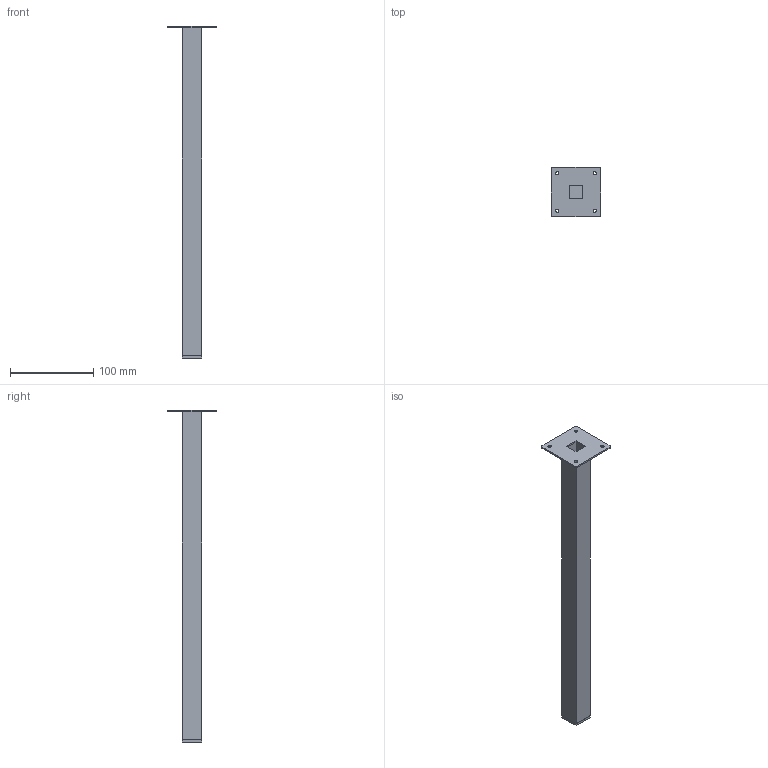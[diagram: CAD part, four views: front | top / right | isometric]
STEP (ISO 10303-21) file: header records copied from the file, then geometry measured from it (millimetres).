
FILE_DESCRIPTION( ( '' ), '1' );
FILE_NAME( 'D:/temp/hettich_stp/hettich/6.5_furniture_legs/table_legs/16873.stp', '2013-02-26T12:27:14', ( '' ), ( '' ), ' ', ' ', ' ' );
FILE_SCHEMA( ( 'automotive_design' ) );
Length unit declared in the file: millimetre
Products named in the file (1): 1
Bounding box: 60 x 60 x 400 mm (x, y, z)
Volume: 44630.4 mm3; surface area: 81398.9 mm2
Topology: 1 solids, 1 shells, 43 faces, 108 edges, 72 vertices
Faces by surface type: plane 31, cylinder 12
Entity records: 2570 total; most frequent: STYLED_ITEM 224, PRESENTATION_STYLE_ASSIGNMENT 224, CARTESIAN_POINT 224, COLOUR_RGB 224, DIRECTION 220, ORIENTED_EDGE 216, EDGE_CURVE 108, CURVE_STYLE 108
